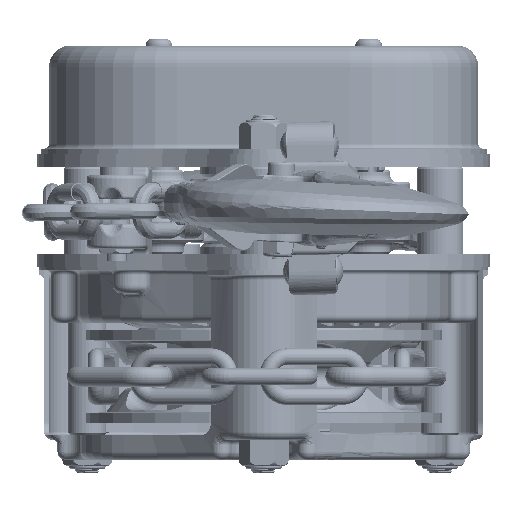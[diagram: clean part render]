
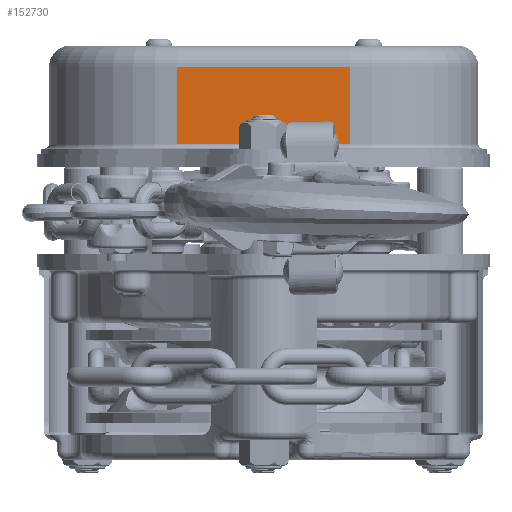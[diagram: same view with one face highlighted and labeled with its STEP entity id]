
A CAD part, front view. The second image highlights one B-rep face of the part: STEP entity #152730.
In plain terms, the highlighted planar face has unit normal (0, -1, 0).
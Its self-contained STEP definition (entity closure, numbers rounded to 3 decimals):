
#9317 = CARTESIAN_POINT ( 'NONE',  ( -26., -51.5, 26. ) ) ;
#12240 = DIRECTION ( 'NONE',  ( 0., 0., 1. ) ) ;
#25409 = VECTOR ( 'NONE', #28078, 1000. ) ;
#28078 = DIRECTION ( 'NONE',  ( 0., 0., 1. ) ) ;
#31744 = CARTESIAN_POINT ( 'NONE',  ( 26., -51.5, 3. ) ) ;
#35676 = EDGE_LOOP ( 'NONE', ( #71395, #74707, #190245, #219887 ) ) ;
#50150 = CARTESIAN_POINT ( 'NONE',  ( 0., -51.5, 1.5 ) ) ;
#54852 = DIRECTION ( 'NONE',  ( -1., 0., 0. ) ) ;
#63010 = CARTESIAN_POINT ( 'NONE',  ( 26., -51.5, 1.5 ) ) ;
#68792 = DIRECTION ( 'NONE',  ( 0., 0., -1. ) ) ;
#71395 = ORIENTED_EDGE ( 'NONE', *, *, #71733, .F. ) ;
#71733 = EDGE_CURVE ( 'NONE', #203387, #196311, #147404, .T. ) ;
#74043 = LINE ( 'NONE', #31744, #196595 ) ;
#74707 = ORIENTED_EDGE ( 'NONE', *, *, #179571, .T. ) ;
#75096 = VECTOR ( 'NONE', #12240, 1000. ) ;
#75380 = EDGE_CURVE ( 'NONE', #123777, #196311, #89942, .T. ) ;
#83574 = DIRECTION ( 'NONE',  ( 0., -1., 0. ) ) ;
#89942 = LINE ( 'NONE', #106963, #95511 ) ;
#93098 = CARTESIAN_POINT ( 'NONE',  ( 26., -51.5, 26. ) ) ;
#95511 = VECTOR ( 'NONE', #54852, 1000. ) ;
#102413 = CARTESIAN_POINT ( 'NONE',  ( 26., -51.5, 3. ) ) ;
#106963 = CARTESIAN_POINT ( 'NONE',  ( 0., -51.5, 26. ) ) ;
#123777 = VERTEX_POINT ( 'NONE', #93098 ) ;
#131796 = CARTESIAN_POINT ( 'NONE',  ( -26., -51.5, 1.5 ) ) ;
#146582 = AXIS2_PLACEMENT_3D ( 'NONE', #50150, #83574, #68792 ) ;
#147404 = LINE ( 'NONE', #131796, #75096 ) ;
#149287 = EDGE_CURVE ( 'NONE', #164550, #123777, #178328, .T. ) ;
#152730 = ADVANCED_FACE ( 'NONE', ( #207971 ), #155063, .T. ) ;
#155063 = PLANE ( 'NONE',  #146582 ) ;
#164550 = VERTEX_POINT ( 'NONE', #102413 ) ;
#178328 = LINE ( 'NONE', #63010, #25409 ) ;
#179571 = EDGE_CURVE ( 'NONE', #203387, #164550, #74043, .T. ) ;
#190245 = ORIENTED_EDGE ( 'NONE', *, *, #149287, .T. ) ;
#192579 = DIRECTION ( 'NONE',  ( 1., 0., 0. ) ) ;
#194081 = CARTESIAN_POINT ( 'NONE',  ( -26., -51.5, 3. ) ) ;
#196311 = VERTEX_POINT ( 'NONE', #9317 ) ;
#196595 = VECTOR ( 'NONE', #192579, 1000. ) ;
#203387 = VERTEX_POINT ( 'NONE', #194081 ) ;
#207971 = FACE_OUTER_BOUND ( 'NONE', #35676, .T. ) ;
#219887 = ORIENTED_EDGE ( 'NONE', *, *, #75380, .T. ) ;
